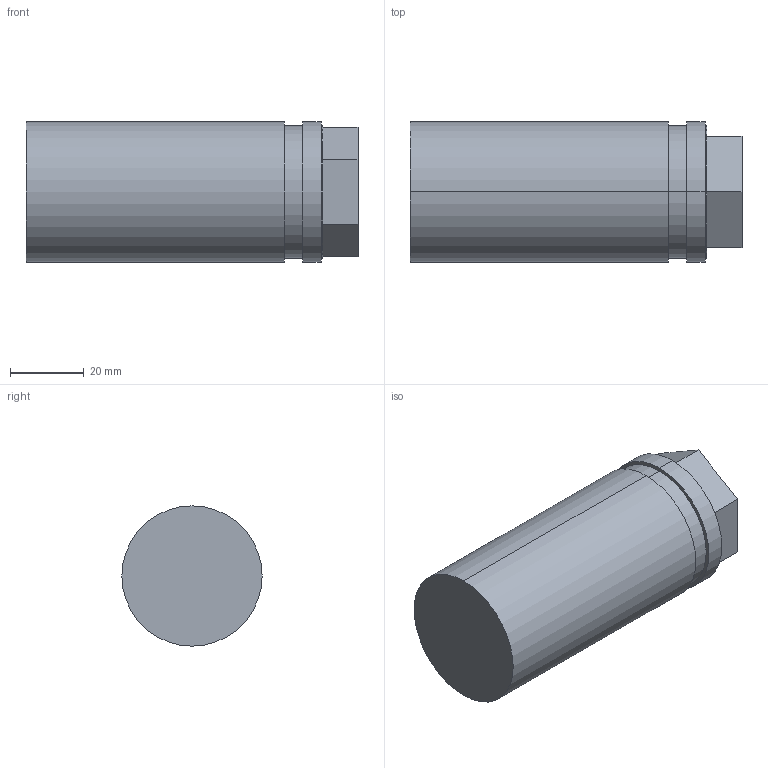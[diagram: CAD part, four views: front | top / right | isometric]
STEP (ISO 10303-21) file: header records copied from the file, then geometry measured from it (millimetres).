
FILE_DESCRIPTION (( 'STEP AP214' ), '1' );
FILE_NAME ('BR601.16 DGB 26.STEP', '2020-12-02T13:15:16', ( '' ), ( '' ), 'SwSTEP 2.0', 'SolidWorks 2018', '' );
FILE_SCHEMA (( 'AUTOMOTIVE_DESIGN' ));
Length unit declared in the file: millimetre
Products named in the file (1): BR601.16 DGB 26
Bounding box: 90 x 38 x 38 mm (x, y, z)
Volume: 93882.1 mm3; surface area: 13793 mm2
Topology: 1 solids, 1 shells, 23 faces, 48 edges, 32 vertices
Faces by surface type: plane 13, cylinder 10
Entity records: 656 total; most frequent: DIRECTION 116, CARTESIAN_POINT 104, ORIENTED_EDGE 96, EDGE_CURVE 48, AXIS2_PLACEMENT_3D 44, VERTEX_POINT 32, LINE 28, VECTOR 28
